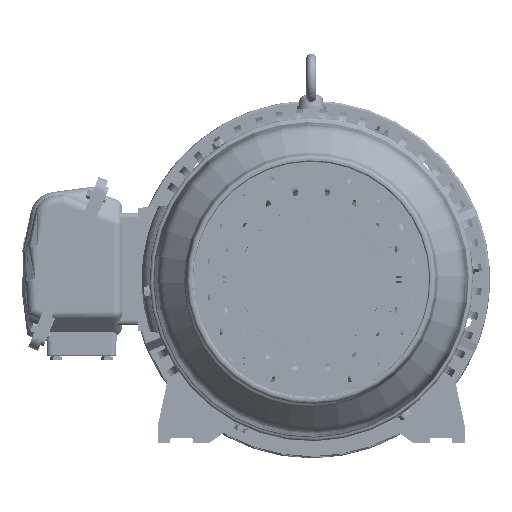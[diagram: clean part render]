
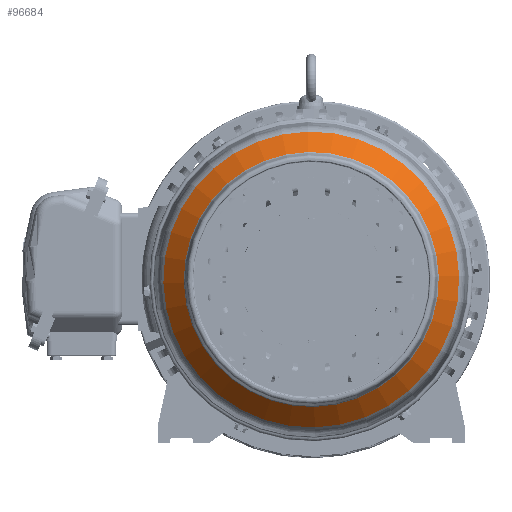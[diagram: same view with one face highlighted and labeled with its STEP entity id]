
A CAD part, front view. The second image highlights one B-rep face of the part: STEP entity #96684.
In plain terms, the highlighted conical face has half-angle 44.148 degrees and reference radius 124.85 mm.
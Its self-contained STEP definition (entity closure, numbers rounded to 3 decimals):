
#9651=FACE_OUTER_BOUND('',#15006,.T.);
#15006=EDGE_LOOP('',(#69406,#69407,#69408,#69409));
#21017=CIRCLE('',#102836,144.803);
#21018=CIRCLE('',#102838,124.851);
#25088=LINE('',#148455,#32926);
#32926=VECTOR('',#115374,124.851);
#41478=VERTEX_POINT('',#148450);
#41479=VERTEX_POINT('',#148454);
#52234=EDGE_CURVE('',#41478,#41478,#21017,.T.);
#52235=EDGE_CURVE('',#41478,#41479,#25088,.T.);
#52236=EDGE_CURVE('',#41479,#41479,#21018,.T.);
#69406=ORIENTED_EDGE('',*,*,#52234,.F.);
#69407=ORIENTED_EDGE('',*,*,#52235,.T.);
#69408=ORIENTED_EDGE('',*,*,#52236,.T.);
#69409=ORIENTED_EDGE('',*,*,#52235,.F.);
#95838=CONICAL_SURFACE('',#102837,124.851,0.771);
#96684=ADVANCED_FACE('',(#9651),#95838,.T.);
#102836=AXIS2_PLACEMENT_3D('',#148452,#115370,#115371);
#102837=AXIS2_PLACEMENT_3D('',#148453,#115372,#115373);
#102838=AXIS2_PLACEMENT_3D('',#148456,#115375,#115376);
#115370=DIRECTION('center_axis',(0.,1.,0.));
#115371=DIRECTION('ref_axis',(0.,0.,-1.));
#115372=DIRECTION('center_axis',(0.,1.,0.));
#115373=DIRECTION('ref_axis',(0.878,0.,-0.479));
#115374=DIRECTION('',(0.611,-0.718,-0.334));
#115375=DIRECTION('center_axis',(0.,1.,0.));
#115376=DIRECTION('ref_axis',(0.,0.,-1.));
#148450=CARTESIAN_POINT('',(-127.076,-291.569,69.422));
#148452=CARTESIAN_POINT('Origin',(0.,-291.569,0.));
#148453=CARTESIAN_POINT('Origin',(0.,-312.124,0.));
#148454=CARTESIAN_POINT('',(-109.567,-312.124,59.857));
#148455=CARTESIAN_POINT('',(-109.567,-312.124,59.857));
#148456=CARTESIAN_POINT('Origin',(0.,-312.124,0.));
